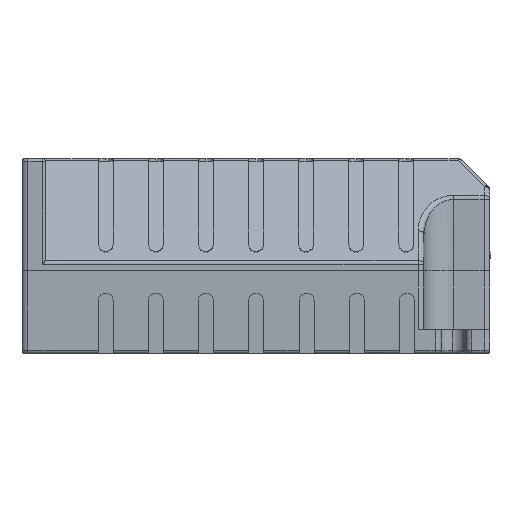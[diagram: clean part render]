
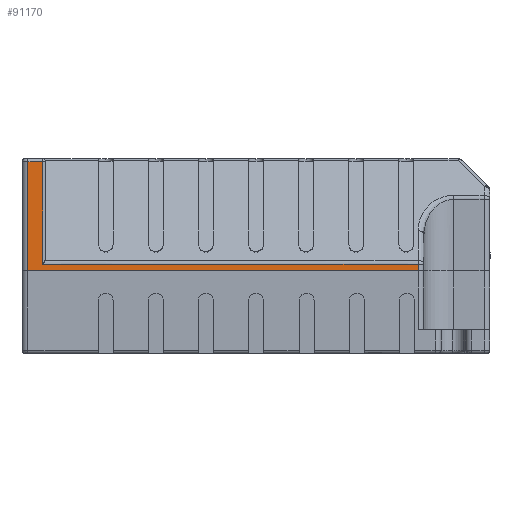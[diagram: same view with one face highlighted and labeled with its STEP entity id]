
A CAD part, left-side view. The second image highlights one B-rep face of the part: STEP entity #91170.
In plain terms, the highlighted planar face has unit normal (-1, 0, 0).
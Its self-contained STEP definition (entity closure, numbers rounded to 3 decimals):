
#22690=CARTESIAN_POINT('',(-437.727,-145.475,
15.085));
#22700=VERTEX_POINT('',#22690);
#22730=CARTESIAN_POINT('',(-437.727,-145.475,
0.));
#22740=DIRECTION('',(0.,0.,1.));
#22750=VECTOR('',#22740,1.);
#22760=LINE('',#22730,#22750);
#22770=CARTESIAN_POINT('',(-437.727,-145.475,
32.5));
#22780=VERTEX_POINT('',#22770);
#22790=EDGE_CURVE('',#22700,#22780,#22760,.T.);
#47730=CARTESIAN_POINT('',(-437.727,-0.4,
32.5));
#47740=DIRECTION('',(0.,-1.,0.));
#47750=VECTOR('',#47740,1.);
#47760=LINE('',#47730,#47750);
#47770=CARTESIAN_POINT('',(-437.727,-142.974,
32.5));
#47780=VERTEX_POINT('',#47770);
#47790=EDGE_CURVE('',#47780,#22780,#47760,.T.);
#90780=CARTESIAN_POINT('',(-437.727,-142.174,
5.496));
#90790=DIRECTION('',(1.,0.,0.));
#90800=DIRECTION('',(0.,-1.,0.));
#90810=AXIS2_PLACEMENT_3D('',#90780,#90790,#90800);
#90820=PLANE('',#90810);
#90830=ORIENTED_EDGE('',*,*,#22790,.T.);
#90840=CARTESIAN_POINT('',(-437.727,-0.4,
15.085));
#90850=DIRECTION('',(0.,1.,0.));
#90860=VECTOR('',#90850,1.);
#90870=LINE('',#90840,#90860);
#90880=CARTESIAN_POINT('',(-437.727,-209.174,
15.085));
#90890=VERTEX_POINT('',#90880);
#90900=EDGE_CURVE('',#90890,#22700,#90870,.T.);
#90910=ORIENTED_EDGE('',*,*,#90900,.T.);
#90920=CARTESIAN_POINT('',(-437.727,-209.174,
0.));
#90930=DIRECTION('',(0.,0.,1.));
#90940=VECTOR('',#90930,1.);
#90950=LINE('',#90920,#90940);
#90960=CARTESIAN_POINT('',(-437.727,-209.174,14.));
#90970=VERTEX_POINT('',#90960);
#90980=EDGE_CURVE('',#90970,#90890,#90950,.T.);
#90990=ORIENTED_EDGE('',*,*,#90980,.T.);
#91000=CARTESIAN_POINT('',(-437.727,0.,
14.));
#91010=DIRECTION('',(0.,-1.,0.));
#91020=VECTOR('',#91010,1.);
#91030=LINE('',#91000,#91020);
#91040=CARTESIAN_POINT('',(-437.727,-142.974,14.));
#91050=VERTEX_POINT('',#91040);
#91060=EDGE_CURVE('',#91050,#90970,#91030,.T.);
#91070=ORIENTED_EDGE('',*,*,#91060,.T.);
#91080=CARTESIAN_POINT('',(-437.727,-142.974,
0.));
#91090=DIRECTION('',(0.,0.,1.));
#91100=VECTOR('',#91090,1.);
#91110=LINE('',#91080,#91100);
#91120=EDGE_CURVE('',#91050,#47780,#91110,.T.);
#91130=ORIENTED_EDGE('',*,*,#91120,.F.);
#91140=ORIENTED_EDGE('',*,*,#47790,.F.);
#91150=EDGE_LOOP('',(#91140,#91130,#91070,#90990,#90910,#90830));
#91160=FACE_OUTER_BOUND('',#91150,.T.);
#91170=ADVANCED_FACE('',(#91160),#90820,.F.);
